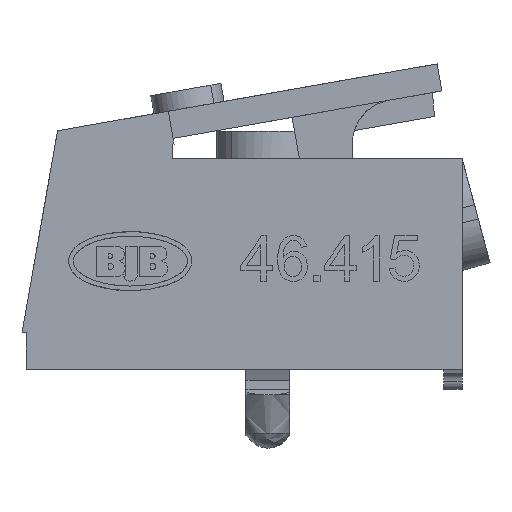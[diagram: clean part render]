
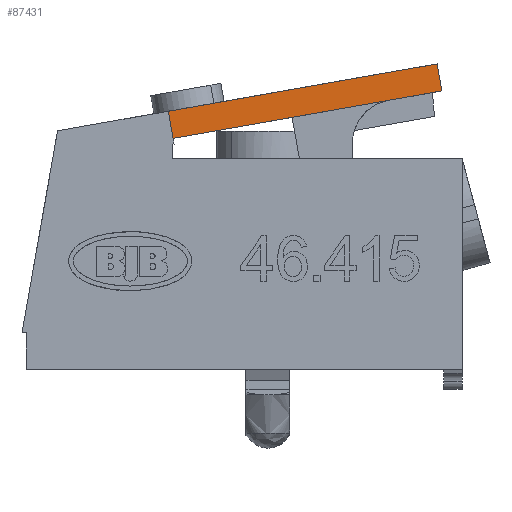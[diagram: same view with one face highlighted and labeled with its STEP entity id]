
A CAD part, left-side view. The second image highlights one B-rep face of the part: STEP entity #87431.
In plain terms, the highlighted planar face has unit normal (-1, 0, 0).
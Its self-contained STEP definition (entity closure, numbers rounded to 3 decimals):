
#42506=CARTESIAN_POINT(' ',(-23.3,16.04,14.09));
#42507=VERTEX_POINT(' ',#42506);
#42521=CARTESIAN_POINT(' ',(-23.3,1.366,16.678));
#42526=DIRECTION(' ',(0.,0.985,-0.174));
#42531=VECTOR(' ',#42526,1.);
#42536=LINE(' ',#42521,#42531);
#42541=CARTESIAN_POINT(' ',(-23.3,1.366,16.678));
#42542=VERTEX_POINT(' ',#42541);
#42546=EDGE_CURVE(' ',#42542,#42507,#42536,.T.);
#43816=CARTESIAN_POINT(' ',(-23.3,15.78,12.613));
#43817=VERTEX_POINT(' ',#43816);
#43831=CARTESIAN_POINT(' ',(-23.3,16.04,14.09));
#43836=DIRECTION(' ',(0.,-0.174,-0.985));
#43841=VECTOR(' ',#43836,1.);
#43846=LINE(' ',#43831,#43841);
#43851=EDGE_CURVE(' ',#42507,#43817,#43846,.T.);
#87321=CARTESIAN_POINT(' ',(-23.3,1.106,12.613));
#87326=DIRECTION(' ',(-1.,0.,0.));
#87331=DIRECTION(' ',(0.,0.,1.));
#87336=AXIS2_PLACEMENT_3D(' ',#87321,#87326,#87331);
#87341=PLANE(' ',#87336);
#87346=ORIENTED_EDGE(' ',*,*,#42546,.T.);
#87351=ORIENTED_EDGE(' ',*,*,#43851,.T.);
#87356=CARTESIAN_POINT(' ',(-23.3,15.78,12.613));
#87361=DIRECTION(' ',(0.,-0.985,0.174));
#87366=VECTOR(' ',#87361,1.);
#87371=LINE(' ',#87356,#87366);
#87376=CARTESIAN_POINT(' ',(-23.3,1.106,15.201));
#87377=VERTEX_POINT(' ',#87376);
#87381=EDGE_CURVE(' ',#43817,#87377,#87371,.T.);
#87386=ORIENTED_EDGE(' ',*,*,#87381,.T.);
#87391=CARTESIAN_POINT(' ',(-23.3,1.106,15.201));
#87396=DIRECTION(' ',(0.,0.174,0.985));
#87401=VECTOR(' ',#87396,1.);
#87406=LINE(' ',#87391,#87401);
#87411=EDGE_CURVE(' ',#87377,#42542,#87406,.T.);
#87416=ORIENTED_EDGE(' ',*,*,#87411,.T.);
#87421=EDGE_LOOP(' ',(#87346,#87351,#87386,#87416));
#87426=FACE_OUTER_BOUND(' ',#87421,.T.);
#87431=ADVANCED_FACE(' ',(#87426),#87341,.T.);
